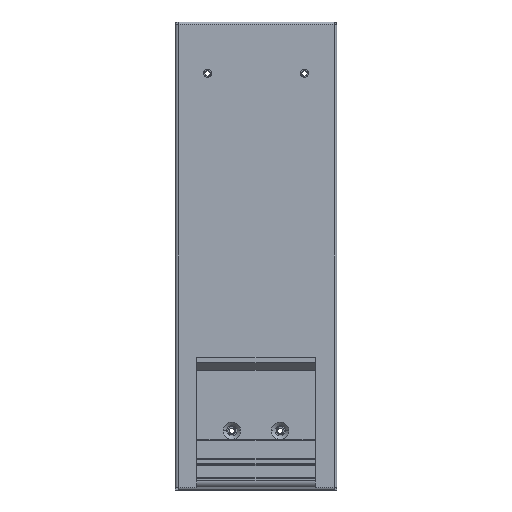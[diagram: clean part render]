
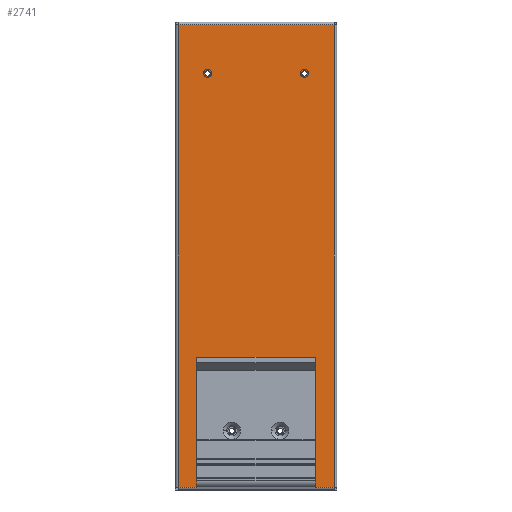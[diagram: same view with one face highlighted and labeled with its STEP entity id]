
A CAD part, front view. The second image highlights one B-rep face of the part: STEP entity #2741.
In plain terms, the highlighted planar face has unit normal (0, -1, 0).
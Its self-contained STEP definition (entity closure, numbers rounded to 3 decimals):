
#231=DIRECTION('',(0.,0.,1.));
#232=VECTOR('',#231,172.);
#233=CARTESIAN_POINT('',(-29.,-4.,-64.7));
#234=LINE('',#233,#232);
#389=DIRECTION('',(-1.,0.,0.));
#390=VECTOR('',#389,58.);
#391=CARTESIAN_POINT('',(29.,-4.,-64.7));
#392=LINE('',#391,#390);
#413=CARTESIAN_POINT('',(-18.,-4.,89.2));
#414=DIRECTION('',(0.,1.,0.));
#415=DIRECTION('',(1.,0.,0.));
#416=AXIS2_PLACEMENT_3D('',#413,#414,#415);
#418=CARTESIAN_POINT('',(-18.,-4.,89.2));
#419=DIRECTION('',(0.,1.,0.));
#420=DIRECTION('',(-1.,0.,0.));
#421=AXIS2_PLACEMENT_3D('',#418,#419,#420);
#423=CARTESIAN_POINT('',(18.,-4.,89.2));
#424=DIRECTION('',(0.,1.,0.));
#425=DIRECTION('',(1.,0.,0.));
#426=AXIS2_PLACEMENT_3D('',#423,#424,#425);
#428=CARTESIAN_POINT('',(18.,-4.,89.2));
#429=DIRECTION('',(0.,1.,0.));
#430=DIRECTION('',(-1.,0.,0.));
#431=AXIS2_PLACEMENT_3D('',#428,#429,#430);
#433=DIRECTION('',(0.,0.,1.));
#434=VECTOR('',#433,39.1);
#435=CARTESIAN_POINT('',(-22.,-4.,-57.285));
#436=LINE('',#435,#434);
#437=DIRECTION('',(-1.,0.,0.));
#438=VECTOR('',#437,44.);
#439=CARTESIAN_POINT('',(22.,-4.,-57.285));
#440=LINE('',#439,#438);
#441=DIRECTION('',(0.,0.,1.));
#442=VECTOR('',#441,39.1);
#443=CARTESIAN_POINT('',(22.,-4.,-57.285));
#444=LINE('',#443,#442);
#445=DIRECTION('',(1.,0.,0.));
#446=VECTOR('',#445,21.077);
#447=CARTESIAN_POINT('',(0.923,-4.,-18.185));
#448=LINE('',#447,#446);
#449=CARTESIAN_POINT('',(0.,-4.,-17.8));
#450=DIRECTION('',(0.,1.,0.));
#451=DIRECTION('',(1.,0.,0.));
#452=AXIS2_PLACEMENT_3D('',#449,#450,#451);
#454=CARTESIAN_POINT('',(0.,-4.,-17.8));
#455=DIRECTION('',(0.,1.,0.));
#456=DIRECTION('',(-1.,0.,0.));
#457=AXIS2_PLACEMENT_3D('',#454,#455,#456);
#459=CARTESIAN_POINT('',(0.,-4.,-17.8));
#460=DIRECTION('',(0.,1.,0.));
#461=DIRECTION('',(-0.923,0.,-0.385));
#462=AXIS2_PLACEMENT_3D('',#459,#460,#461);
#464=DIRECTION('',(1.,0.,0.));
#465=VECTOR('',#464,21.077);
#466=CARTESIAN_POINT('',(-22.,-4.,-18.185));
#467=LINE('',#466,#465);
#488=DIRECTION('',(1.,0.,0.));
#489=VECTOR('',#488,58.);
#490=CARTESIAN_POINT('',(-29.,-4.,107.3));
#491=LINE('',#490,#489);
#500=DIRECTION('',(0.,0.,-1.));
#501=VECTOR('',#500,172.);
#502=CARTESIAN_POINT('',(29.,-4.,107.3));
#503=LINE('',#502,#501);
#1669=CARTESIAN_POINT('',(29.,-4.,-64.7));
#1670=CARTESIAN_POINT('',(-29.,-4.,-64.7));
#1671=VERTEX_POINT('',#1669);
#1672=VERTEX_POINT('',#1670);
#1675=CARTESIAN_POINT('',(29.,-4.,107.3));
#1676=VERTEX_POINT('',#1675);
#1677=CARTESIAN_POINT('',(-29.,-4.,107.3));
#1678=VERTEX_POINT('',#1677);
#1685=CARTESIAN_POINT('',(-1.,-4.,-17.8));
#1686=CARTESIAN_POINT('',(1.,-4.,-17.8));
#1687=VERTEX_POINT('',#1685);
#1688=VERTEX_POINT('',#1686);
#1713=CARTESIAN_POINT('',(-17.,-4.,89.2));
#1714=CARTESIAN_POINT('',(-19.,-4.,89.2));
#1715=VERTEX_POINT('',#1713);
#1716=VERTEX_POINT('',#1714);
#1731=CARTESIAN_POINT('',(19.,-4.,89.2));
#1732=CARTESIAN_POINT('',(17.,-4.,89.2));
#1733=VERTEX_POINT('',#1731);
#1734=VERTEX_POINT('',#1732);
#2095=CARTESIAN_POINT('',(-22.,-4.,-57.285));
#2096=CARTESIAN_POINT('',(-22.,-4.,-18.185));
#2097=VERTEX_POINT('',#2095);
#2098=VERTEX_POINT('',#2096);
#2099=CARTESIAN_POINT('',(22.,-4.,-57.285));
#2100=CARTESIAN_POINT('',(22.,-4.,-18.185));
#2101=VERTEX_POINT('',#2099);
#2102=VERTEX_POINT('',#2100);
#2103=CARTESIAN_POINT('',(-0.923,-4.,-18.185));
#2104=VERTEX_POINT('',#2103);
#2105=CARTESIAN_POINT('',(0.923,-4.,-18.185));
#2106=VERTEX_POINT('',#2105);
#2698=CARTESIAN_POINT('',(0.,-4.,21.3));
#2699=DIRECTION('',(0.,1.,0.));
#2700=DIRECTION('',(1.,0.,0.));
#2701=AXIS2_PLACEMENT_3D('',#2698,#2699,#2700);
#2702=PLANE('',#2701);
#2703=ORIENTED_EDGE('',*,*,#2692,.T.);
#2704=ORIENTED_EDGE('',*,*,#2449,.T.);
#2706=ORIENTED_EDGE('',*,*,#2705,.T.);
#2708=ORIENTED_EDGE('',*,*,#2707,.T.);
#2709=EDGE_LOOP('',(#2703,#2704,#2706,#2708));
#2710=FACE_OUTER_BOUND('',#2709,.F.);
#2712=ORIENTED_EDGE('',*,*,#2711,.F.);
#2714=ORIENTED_EDGE('',*,*,#2713,.F.);
#2715=EDGE_LOOP('',(#2712,#2714));
#2716=FACE_BOUND('',#2715,.F.);
#2718=ORIENTED_EDGE('',*,*,#2717,.F.);
#2720=ORIENTED_EDGE('',*,*,#2719,.F.);
#2721=EDGE_LOOP('',(#2718,#2720));
#2722=FACE_BOUND('',#2721,.F.);
#2724=ORIENTED_EDGE('',*,*,#2723,.F.);
#2726=ORIENTED_EDGE('',*,*,#2725,.F.);
#2728=ORIENTED_EDGE('',*,*,#2727,.T.);
#2730=ORIENTED_EDGE('',*,*,#2729,.F.);
#2732=ORIENTED_EDGE('',*,*,#2731,.F.);
#2734=ORIENTED_EDGE('',*,*,#2733,.F.);
#2736=ORIENTED_EDGE('',*,*,#2735,.F.);
#2738=ORIENTED_EDGE('',*,*,#2737,.F.);
#2739=EDGE_LOOP('',(#2724,#2726,#2728,#2730,#2732,#2734,#2736,#2738));
#2740=FACE_BOUND('',#2739,.F.);
#2741=ADVANCED_FACE('',(#2710,#2716,#2722,#2740),#2702,.F.);
#417=CIRCLE('',#416,1.);
#422=CIRCLE('',#421,1.);
#427=CIRCLE('',#426,1.);
#432=CIRCLE('',#431,1.);
#453=CIRCLE('',#452,1.);
#458=CIRCLE('',#457,1.);
#463=CIRCLE('',#462,1.);
#2449=EDGE_CURVE('',#1672,#1678,#234,.T.);
#2692=EDGE_CURVE('',#1671,#1672,#392,.T.);
#2705=EDGE_CURVE('',#1678,#1676,#491,.T.);
#2707=EDGE_CURVE('',#1676,#1671,#503,.T.);
#2711=EDGE_CURVE('',#1715,#1716,#417,.T.);
#2713=EDGE_CURVE('',#1716,#1715,#422,.T.);
#2717=EDGE_CURVE('',#1733,#1734,#427,.T.);
#2719=EDGE_CURVE('',#1734,#1733,#432,.T.);
#2723=EDGE_CURVE('',#2097,#2098,#436,.T.);
#2725=EDGE_CURVE('',#2101,#2097,#440,.T.);
#2727=EDGE_CURVE('',#2101,#2102,#444,.T.);
#2729=EDGE_CURVE('',#2106,#2102,#448,.T.);
#2731=EDGE_CURVE('',#1688,#2106,#453,.T.);
#2733=EDGE_CURVE('',#1687,#1688,#458,.T.);
#2735=EDGE_CURVE('',#2104,#1687,#463,.T.);
#2737=EDGE_CURVE('',#2098,#2104,#467,.T.);
